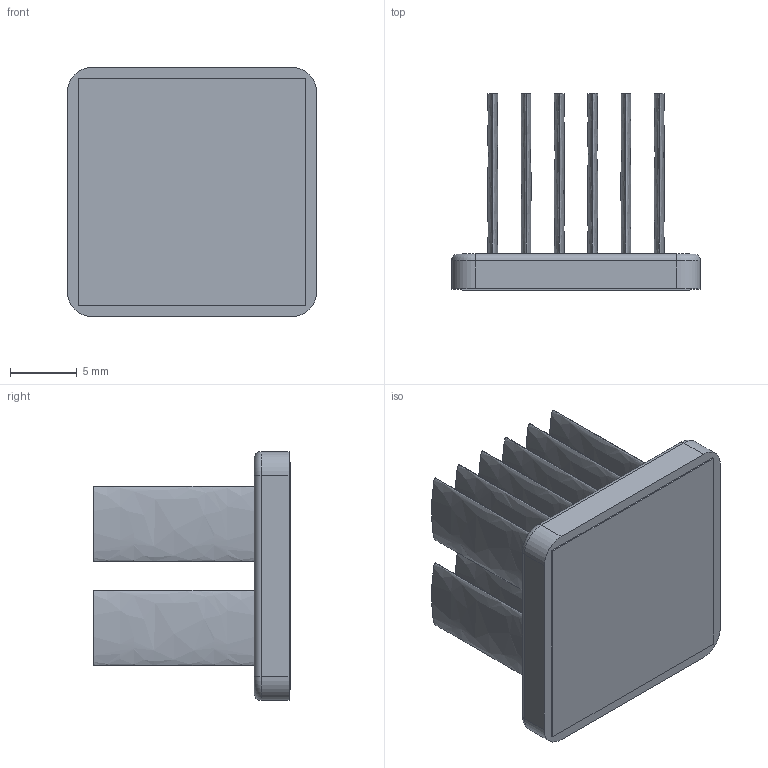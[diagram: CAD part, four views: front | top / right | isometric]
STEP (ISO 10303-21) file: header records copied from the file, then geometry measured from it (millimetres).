
FILE_DESCRIPTION (( 'STEP AP214' ), '1' );
FILE_NAME ('INM19001-15W-2.6.STEP', '2023-03-02T18:16:28', ( '' ), ( '' ), 'SwSTEP 2.0', 'SolidWorks 2020', '' );
FILE_SCHEMA (( 'AUTOMOTIVE_DESIGN' ));
Length unit declared in the file: millimetre
Products named in the file (1): INM19001-15W-2.6
Bounding box: 18.6 x 14.7 x 18.6 mm (x, y, z)
Volume: 1403.4 mm3; surface area: 3108.2 mm2
Topology: 2 solids, 2 shells, 60 faces, 124 edges, 80 vertices
Faces by surface type: bspline 24, plane 24, cylinder 8, torus 4
Entity records: 2339 total; most frequent: CARTESIAN_POINT 577, ORIENTED_EDGE 248, DIRECTION 170, EDGE_CURVE 124, VERTEX_POINT 80, EDGE_LOOP 72, UNCERTAINTY_MEASURE_WITH_UNIT 64, PRESENTATION_LAYER_ASSIGNMENT 63
